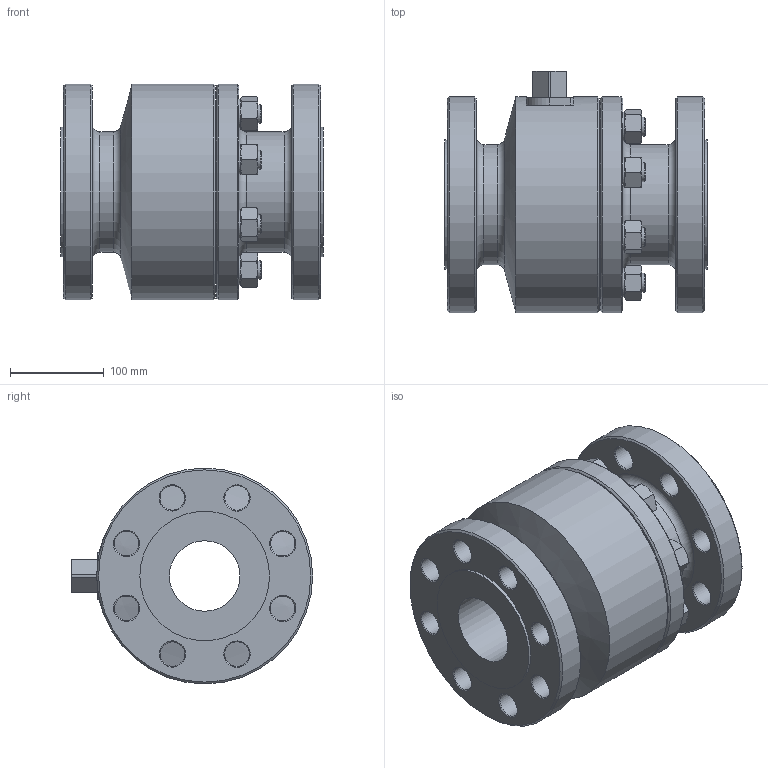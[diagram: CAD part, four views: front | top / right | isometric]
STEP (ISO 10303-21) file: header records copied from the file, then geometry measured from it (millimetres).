
FILE_DESCRIPTION((''),'2;1');
FILE_NAME('C:\Users\Bartek\Desktop\Nowy folder (2)\Nowy folder (22)\WK5b\WK5b DN80 PN100_Substitute_1.stp','2024-09-17T09:48:55',('Bartek'),(''),'Autodesk Inventor 2012','Autodesk Inventor 2012','');
FILE_SCHEMA(('AUTOMOTIVE_DESIGN { 1 0 10303 214 1 1 1 1 }'));
Length unit declared in the file: millimetre
Products named in the file (1): WK5b DN80 PN100_Substitute_1
Bounding box: 280 x 257 x 230 mm (x, y, z)
Volume: 7486482.4 mm3; surface area: 500868.8 mm2
Topology: 1 solids, 1 shells, 295 faces, 651 edges, 391 vertices
Faces by surface type: cone 144, plane 97, cylinder 50, torus 4
Full cylindrical faces by diameter (mm): 20 x8, 26 x16, 31 x8, 75 x1, 128 x2, 138 x2, 156 x1, 230 x4
Entity records: 7551 total; most frequent: CARTESIAN_POINT 1580, DIRECTION 1186, ORIENTED_EDGE 1066, AXIS2_PLACEMENT_3D 549, EDGE_CURVE 533, EDGE_LOOP 456, VERTEX_POINT 367, STYLED_ITEM 296
